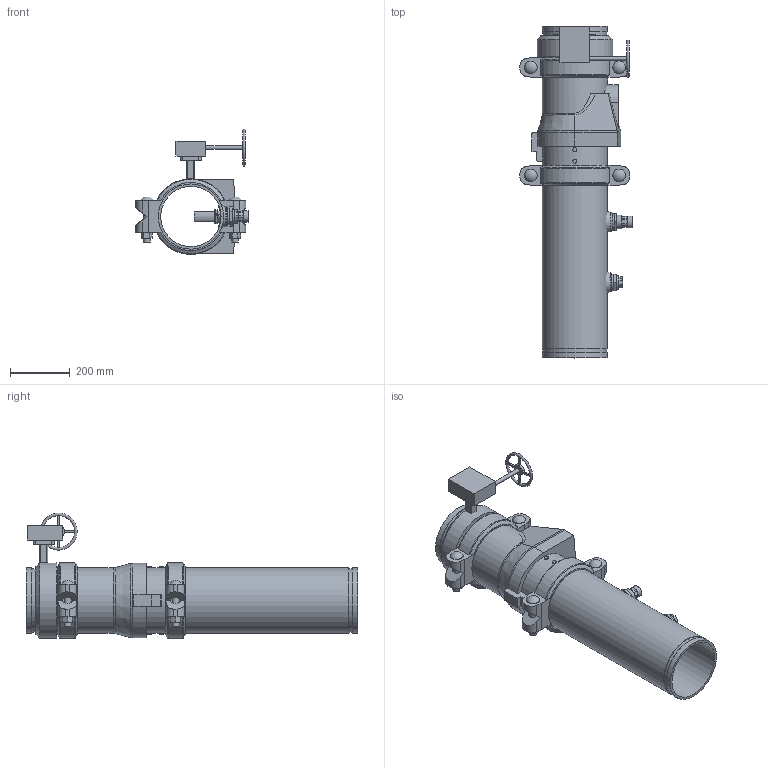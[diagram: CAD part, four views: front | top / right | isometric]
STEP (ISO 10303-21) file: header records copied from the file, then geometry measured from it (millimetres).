
FILE_DESCRIPTION(/* description */ ('VIC DVI PUMP DROP VERT S/380G (OGS)','CAx-IF Rec.Pracs.---Representation and Presentation of Product Manufacturing Information (PMI)---4.0---2014-10-13'),/* implementation_level */ '2;1');
FILE_NAME(/* name */ 'C:\Users\Public\Documents\Victaulic.Temp\A958\Victaulic_IPS_Vertical DVI_Series 380G (OGSxOGS)_08.0x08.0 (200x200).stp',/* time_stamp */ '2022-07-25T12:44:17+02:00',/* author */ ('Vjadhav'),/* organization */ ('Victaulic'),/* preprocessor_version */ 'ST-DEVELOPER v18',/* originating_system */ 'Autodesk Inventor 2020',/* authorisation */ '');
FILE_SCHEMA (('AP242_MANAGED_MODEL_BASED_3D_ENGINEERING_MIM_LF { 1 0 10303 442 1 1 4 }'));
Length unit declared in the file: inch
Products named in the file (7): 380G-08.0x08.0; Pipe-08.0x08.0; 177N-08.0; 779-08.0; 923-04.0x0.75; 924-04.0x0.75; 761-08.0
Assembly tree (7 placements, depth 2):
  380G-08.0x08.0
    Pipe-08.0x08.0
    177N-08.0  x2
    779-08.0
    923-04.0x0.75
    924-04.0x0.75
    761-08.0
Bounding box: 376.21 x 1114.55 x 422.39 mm (x, y, z)
Volume: 13900579 mm3; surface area: 2176311.3 mm2
Topology: 7 solids, 8 shells, 439 faces, 1162 edges, 776 vertices
Faces by surface type: plane 269, cylinder 135, torus 15, cone 14, sphere 4, bspline 2
Full cylindrical faces by diameter (mm): 8.636 x4, 12.446 x1, 12.7 x1, 13.716 x4, 22.225 x4, 22.86 x1, 26.67 x2, 38.608 x1, 39.125 x1, 42.85 x4, 45.974 x4, 55.118 x1, 55.626 x2, 202.717 x3, 206.375 x2, 214.401 x6, 219.075 x15, 254 x1
Entity records: 12184 total; most frequent: CARTESIAN_POINT 2623, DIRECTION 1949, ORIENTED_EDGE 1826, EDGE_CURVE 913, AXIS2_PLACEMENT_3D 734, VERTEX_POINT 612, LINE 481, VECTOR 481
